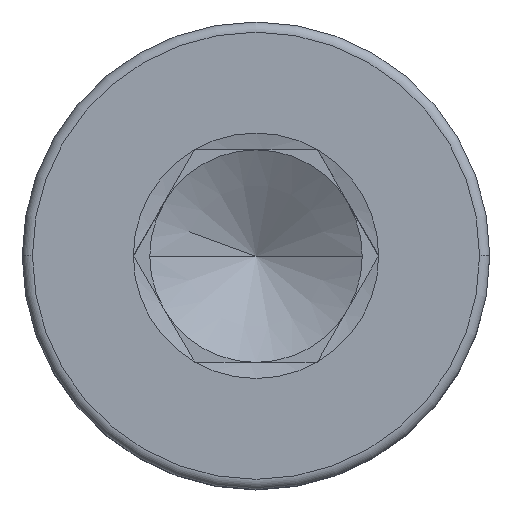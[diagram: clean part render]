
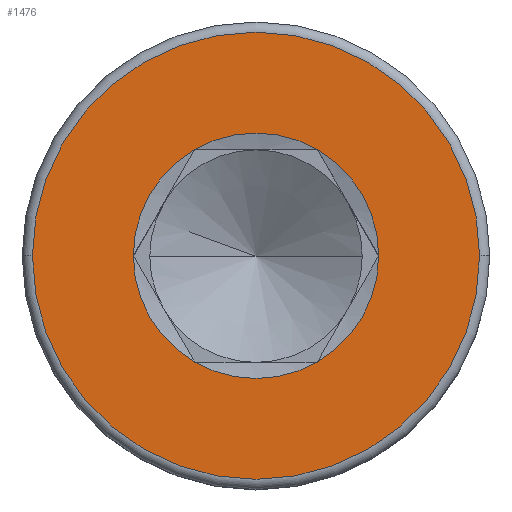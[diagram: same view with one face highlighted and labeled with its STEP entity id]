
A CAD part, top view. The second image highlights one B-rep face of the part: STEP entity #1476.
In plain terms, the highlighted planar face has unit normal (0, 0, 1).
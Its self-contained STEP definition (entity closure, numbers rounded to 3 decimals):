
#7 = CARTESIAN_POINT ( 'NONE',  ( 2.63, 0., 3. ) ) ;
#22 = AXIS2_PLACEMENT_3D ( 'NONE', #1046, #1348, #1202 ) ;
#56 = CARTESIAN_POINT ( 'NONE',  ( 0., 0., 3. ) ) ;
#69 = DIRECTION ( 'NONE',  ( 1., 0., 0. ) ) ;
#75 = DIRECTION ( 'NONE',  ( 0., 0., 1. ) ) ;
#151 = AXIS2_PLACEMENT_3D ( 'NONE', #1404, #75, #684 ) ;
#209 = CARTESIAN_POINT ( 'NONE',  ( 0., 0., 3. ) ) ;
#212 = AXIS2_PLACEMENT_3D ( 'NONE', #209, #1390, #69 ) ;
#230 = FACE_OUTER_BOUND ( 'NONE', #280, .T. ) ;
#237 = CIRCLE ( 'NONE', #1409, 1.443 ) ;
#272 = CIRCLE ( 'NONE', #1711, 1.443 ) ;
#280 = EDGE_LOOP ( 'NONE', ( #1692, #788 ) ) ;
#327 = CARTESIAN_POINT ( 'NONE',  ( 0., 0., 3. ) ) ;
#332 = DIRECTION ( 'NONE',  ( 0., 0., 1. ) ) ;
#394 = FACE_BOUND ( 'NONE', #1287, .T. ) ;
#440 = EDGE_CURVE ( 'NONE', #597, #1794, #1163, .T. ) ;
#448 = EDGE_CURVE ( 'NONE', #1794, #1156, #237, .T. ) ;
#460 = DIRECTION ( 'NONE',  ( 0., 0., 1. ) ) ;
#466 = CARTESIAN_POINT ( 'NONE',  ( -0.722, 1.25, 3. ) ) ;
#502 = AXIS2_PLACEMENT_3D ( 'NONE', #1668, #1083, #960 ) ;
#512 = DIRECTION ( 'NONE',  ( 0., 0., 1. ) ) ;
#557 = CIRCLE ( 'NONE', #646, 1.443 ) ;
#569 = VERTEX_POINT ( 'NONE', #1862 ) ;
#573 = ORIENTED_EDGE ( 'NONE', *, *, #973, .F. ) ;
#582 = ORIENTED_EDGE ( 'NONE', *, *, #609, .F. ) ;
#597 = VERTEX_POINT ( 'NONE', #1631 ) ;
#609 = EDGE_CURVE ( 'NONE', #1572, #569, #557, .T. ) ;
#618 = CARTESIAN_POINT ( 'NONE',  ( 1.443, 0., 3. ) ) ;
#642 = CARTESIAN_POINT ( 'NONE',  ( -0.722, -1.25, 3. ) ) ;
#646 = AXIS2_PLACEMENT_3D ( 'NONE', #56, #1527, #665 ) ;
#665 = DIRECTION ( 'NONE',  ( 1., 0., 0. ) ) ;
#677 = EDGE_CURVE ( 'NONE', #735, #1611, #1801, .T. ) ;
#684 = DIRECTION ( 'NONE',  ( 1., 0., 0. ) ) ;
#690 = CIRCLE ( 'NONE', #502, 1.443 ) ;
#735 = VERTEX_POINT ( 'NONE', #793 ) ;
#736 = VERTEX_POINT ( 'NONE', #642 ) ;
#781 = CIRCLE ( 'NONE', #151, 1.443 ) ;
#788 = ORIENTED_EDGE ( 'NONE', *, *, #677, .T. ) ;
#793 = CARTESIAN_POINT ( 'NONE',  ( -2.63, 0., 3. ) ) ;
#813 = AXIS2_PLACEMENT_3D ( 'NONE', #1662, #512, #834 ) ;
#834 = DIRECTION ( 'NONE',  ( 1., 0., 0. ) ) ;
#836 = DIRECTION ( 'NONE',  ( 1., 0., 0. ) ) ;
#868 = CIRCLE ( 'NONE', #212, 2.63 ) ;
#960 = DIRECTION ( 'NONE',  ( 1., 0., 0. ) ) ;
#973 = EDGE_CURVE ( 'NONE', #1156, #1572, #272, .T. ) ;
#1032 = ORIENTED_EDGE ( 'NONE', *, *, #448, .F. ) ;
#1038 = ORIENTED_EDGE ( 'NONE', *, *, #1362, .F. ) ;
#1046 = CARTESIAN_POINT ( 'NONE',  ( 0., 0., 3. ) ) ;
#1063 = CARTESIAN_POINT ( 'NONE',  ( 0., 0., 3. ) ) ;
#1083 = DIRECTION ( 'NONE',  ( 0., 0., 1. ) ) ;
#1118 = CARTESIAN_POINT ( 'NONE',  ( 0., 0., 3. ) ) ;
#1122 = ORIENTED_EDGE ( 'NONE', *, *, #440, .F. ) ;
#1156 = VERTEX_POINT ( 'NONE', #1599 ) ;
#1163 = CIRCLE ( 'NONE', #22, 1.443 ) ;
#1202 = DIRECTION ( 'NONE',  ( 1., 0., 0. ) ) ;
#1287 = EDGE_LOOP ( 'NONE', ( #1032, #1122, #1357, #1038, #582, #573 ) ) ;
#1348 = DIRECTION ( 'NONE',  ( 0., 0., 1. ) ) ;
#1357 = ORIENTED_EDGE ( 'NONE', *, *, #1840, .F. ) ;
#1362 = EDGE_CURVE ( 'NONE', #569, #736, #690, .T. ) ;
#1390 = DIRECTION ( 'NONE',  ( 0., 0., 1. ) ) ;
#1404 = CARTESIAN_POINT ( 'NONE',  ( 0., 0., 3. ) ) ;
#1409 = AXIS2_PLACEMENT_3D ( 'NONE', #1063, #332, #1539 ) ;
#1476 = ADVANCED_FACE ( 'NONE', ( #230, #394 ), #1819, .T. ) ;
#1495 = EDGE_CURVE ( 'NONE', #1611, #735, #868, .T. ) ;
#1527 = DIRECTION ( 'NONE',  ( 0., 0., 1. ) ) ;
#1539 = DIRECTION ( 'NONE',  ( 1., 0., 0. ) ) ;
#1572 = VERTEX_POINT ( 'NONE', #466 ) ;
#1599 = CARTESIAN_POINT ( 'NONE',  ( 0.722, 1.25, 3. ) ) ;
#1611 = VERTEX_POINT ( 'NONE', #7 ) ;
#1631 = CARTESIAN_POINT ( 'NONE',  ( 0.722, -1.25, 3. ) ) ;
#1662 = CARTESIAN_POINT ( 'NONE',  ( 0., 0., 3. ) ) ;
#1668 = CARTESIAN_POINT ( 'NONE',  ( 0., 0., 3. ) ) ;
#1692 = ORIENTED_EDGE ( 'NONE', *, *, #1495, .T. ) ;
#1693 = DIRECTION ( 'NONE',  ( 0., 0., 1. ) ) ;
#1708 = AXIS2_PLACEMENT_3D ( 'NONE', #327, #460, #1777 ) ;
#1711 = AXIS2_PLACEMENT_3D ( 'NONE', #1118, #1693, #836 ) ;
#1777 = DIRECTION ( 'NONE',  ( 1., 0., 0. ) ) ;
#1794 = VERTEX_POINT ( 'NONE', #618 ) ;
#1801 = CIRCLE ( 'NONE', #1708, 2.63 ) ;
#1819 = PLANE ( 'NONE',  #813 ) ;
#1840 = EDGE_CURVE ( 'NONE', #736, #597, #781, .T. ) ;
#1862 = CARTESIAN_POINT ( 'NONE',  ( -1.443, 0., 3. ) ) ;
